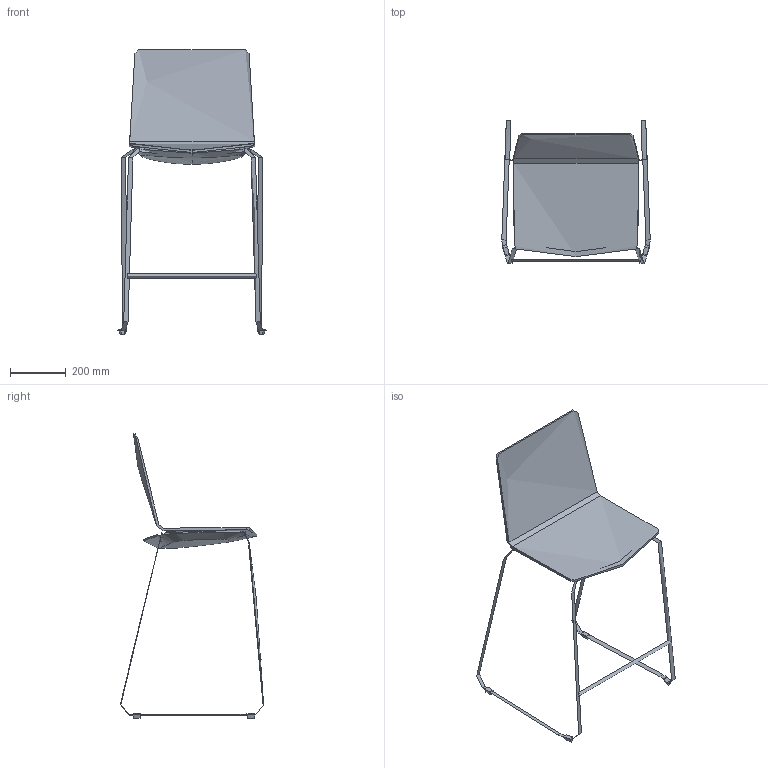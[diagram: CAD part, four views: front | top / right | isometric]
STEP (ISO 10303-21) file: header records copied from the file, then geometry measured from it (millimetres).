
FILE_DESCRIPTION(/* description */ (''),/* implementation_level */ '2;1');
FILE_NAME(/* name */ 'SKYFRE~1',/* time_stamp */ '2017-09-29T20:31:07+02:00',/* author */ (''),/* organization */ (''),/* preprocessor_version */ 'ST-DEVELOPER v15',/* originating_system */ '',/* authorisation */ '');
FILE_SCHEMA (('CONFIG_CONTROL_DESIGN'));
Length unit declared in the file: millimetre
Products named in the file (1): Document
Bounding box: 534.48 x 516.39 x 1024.58 mm (x, y, z)
Volume: 4185256.7 mm3; surface area: 1164581.5 mm2
Topology: 11 solids, 17 shells, 131 faces, 307 edges, 196 vertices
Faces by surface type: bspline 109, plane 22
Entity records: 9524 total; most frequent: CARTESIAN_POINT 7754, ORIENTED_EDGE 572, EDGE_CURVE 304, VERTEX_POINT 196, ADVANCED_FACE 131, FACE_OUTER_BOUND 131, EDGE_LOOP 131, B_SPLINE_CURVE_WITH_KNOTS 72
